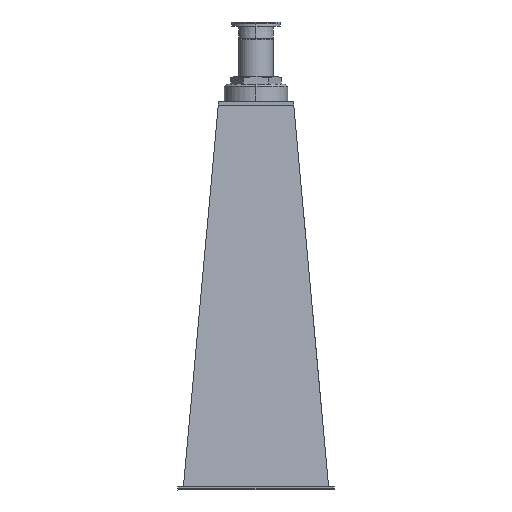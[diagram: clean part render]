
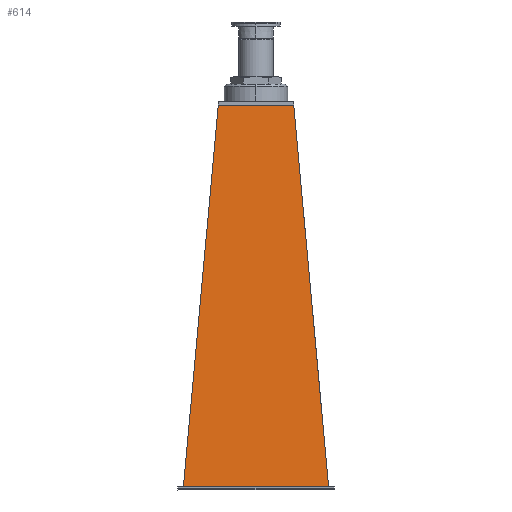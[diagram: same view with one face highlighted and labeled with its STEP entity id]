
A CAD part, left-side view. The second image highlights one B-rep face of the part: STEP entity #614.
In plain terms, the highlighted planar face has unit normal (-0.996, 0, 0.091).
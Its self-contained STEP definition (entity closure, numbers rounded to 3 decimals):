
#614=ADVANCED_FACE('',(#1270),#1271,.T.);
#1270=FACE_OUTER_BOUND('',#2009,.T.);
#1271=PLANE('',#2010);
#2009=EDGE_LOOP('',(#3892,#3893,#3894,#3895));
#2010=AXIS2_PLACEMENT_3D('',#3896,#3897,#3898);
#3892=ORIENTED_EDGE('',*,*,#4923,.T.);
#3893=ORIENTED_EDGE('',*,*,#4671,.F.);
#3894=ORIENTED_EDGE('',*,*,#4911,.T.);
#3895=ORIENTED_EDGE('',*,*,#4938,.T.);
#3896=CARTESIAN_POINT('',(59.037,169.734,663.273));
#3897=DIRECTION('',(-0.996,0.,0.091));
#3898=DIRECTION('',(0.,1.0,0.));
#4671=EDGE_CURVE('',#5624,#5619,#5626,.F.);
#4911=EDGE_CURVE('',#5624,#5938,#5940,.F.);
#4923=EDGE_CURVE('',#5959,#5619,#5962,.T.);
#4938=EDGE_CURVE('',#5938,#5959,#5981,.F.);
#5619=VERTEX_POINT('',#7179);
#5624=VERTEX_POINT('',#7186);
#5626=LINE('',#7189,#7190);
#5938=VERTEX_POINT('',#7758);
#5940=LINE('',#7761,#7762);
#5959=VERTEX_POINT('',#7789);
#5962=LINE('',#7794,#7795);
#5981=LINE('',#7822,#7823);
#7179=CARTESIAN_POINT('',(-0.988,-17.278,6.));
#7186=CARTESIAN_POINT('',(59.012,42.722,663.));
#7189=CARTESIAN_POINT('',(59.57,43.28,669.11));
#7190=VECTOR('',#8489,1.);
#7758=CARTESIAN_POINT('',(59.012,172.747,663.));
#7761=CARTESIAN_POINT('',(59.012,138.734,663.));
#7762=VECTOR('',#8659,1.);
#7789=CARTESIAN_POINT('',(-0.988,232.747,6.));
#7794=CARTESIAN_POINT('',(-0.988,138.734,6.));
#7795=VECTOR('',#8670,1.);
#7822=CARTESIAN_POINT('',(59.57,172.189,669.11));
#7823=VECTOR('',#8679,1.);
#8489=DIRECTION('',(0.091,0.091,0.992));
#8659=DIRECTION('',(0.,-1.0,0.));
#8670=DIRECTION('',(0.,-1.0,0.));
#8679=DIRECTION('',(0.091,-0.091,0.992));
